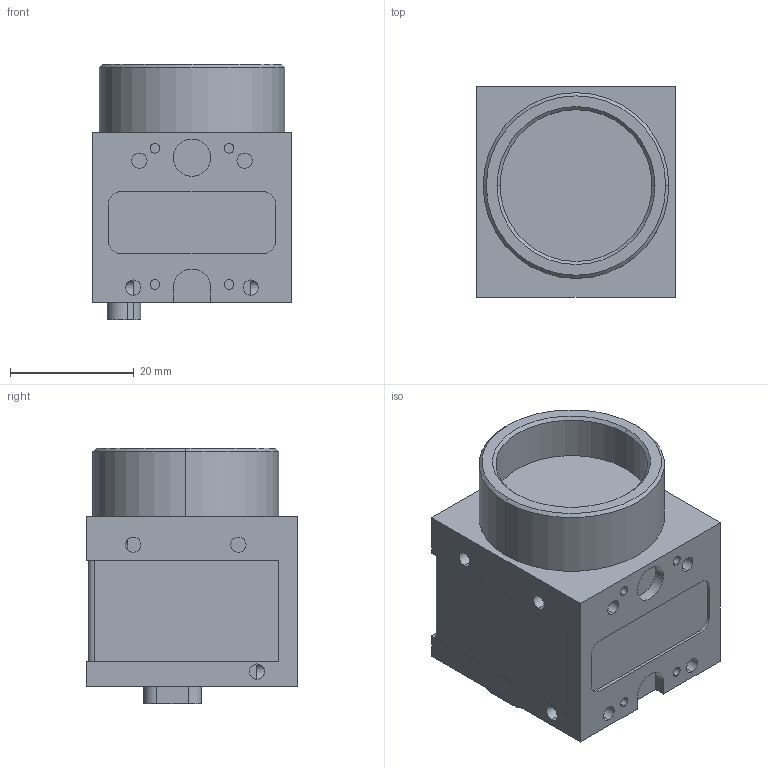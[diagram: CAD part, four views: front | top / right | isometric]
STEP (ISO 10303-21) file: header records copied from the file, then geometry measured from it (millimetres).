
FILE_DESCRIPTION (( 'STEP AP214' ), '1' );
FILE_NAME ('Volumendaten Kamera V2 klein.STEP', '2007-05-22T10:42:48', ( 'Bachmayer' ), ( '' ), 'SwSTEP 2.0', 'SolidWorks 2007', '' );
FILE_SCHEMA (( 'AUTOMOTIVE_DESIGN' ));
Length unit declared in the file: millimetre
Products named in the file (1): Volumendaten Kamera V2 klein
Bounding box: 32 x 34 x 41.3 mm (x, y, z)
Volume: 32932.1 mm3; surface area: 8649.1 mm2
Topology: 1 solids, 1 shells, 204 faces, 511 edges, 321 vertices
Faces by surface type: cylinder 96, plane 79, sphere 18, cone 10, torus 1
Entity records: 5897 total; most frequent: DIRECTION 1104, CARTESIAN_POINT 995, ORIENTED_EDGE 950, EDGE_CURVE 475, AXIS2_PLACEMENT_3D 428, VERTEX_POINT 303, VECTOR 248, LINE 248
